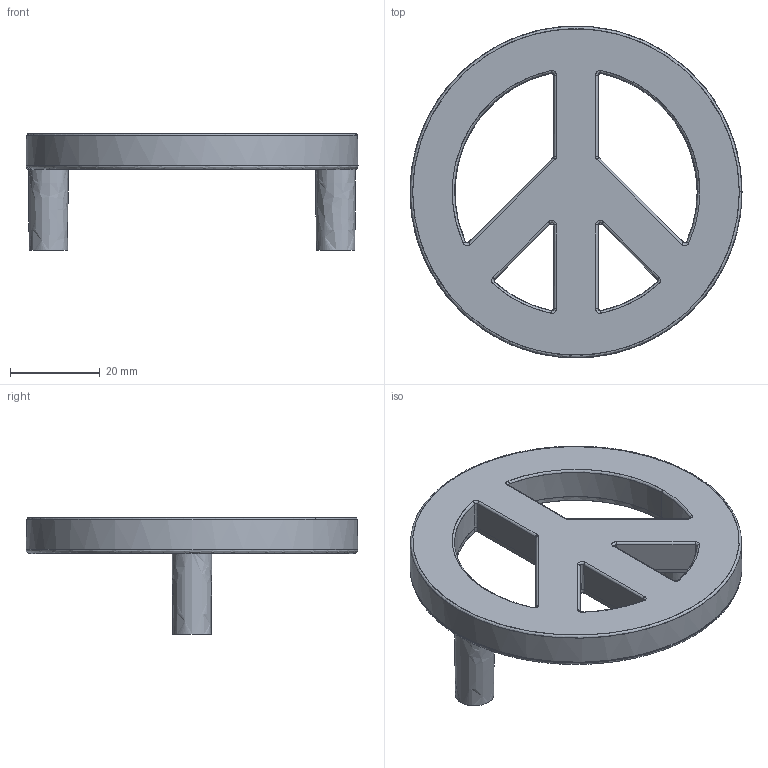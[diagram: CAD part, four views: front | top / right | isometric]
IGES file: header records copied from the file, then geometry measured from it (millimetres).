
Start section: C
Global section: file name: 8282-74.igs; native system: By Siemens PLM Incorporated; preprocessor: XPlus GENERIC/IGES 16.0.42; author: Author; organization: Title; date: 20220504.150935; units: millimetre
Bounding box: 74 x 73.89 x 26 mm (x, y, z)
Surface area: 14846.3 mm2 (no closed solid volume)
Topology: 0 solids, 0 shells, 128 faces, 678 edges, 678 vertices
Faces by surface type: bspline 128
